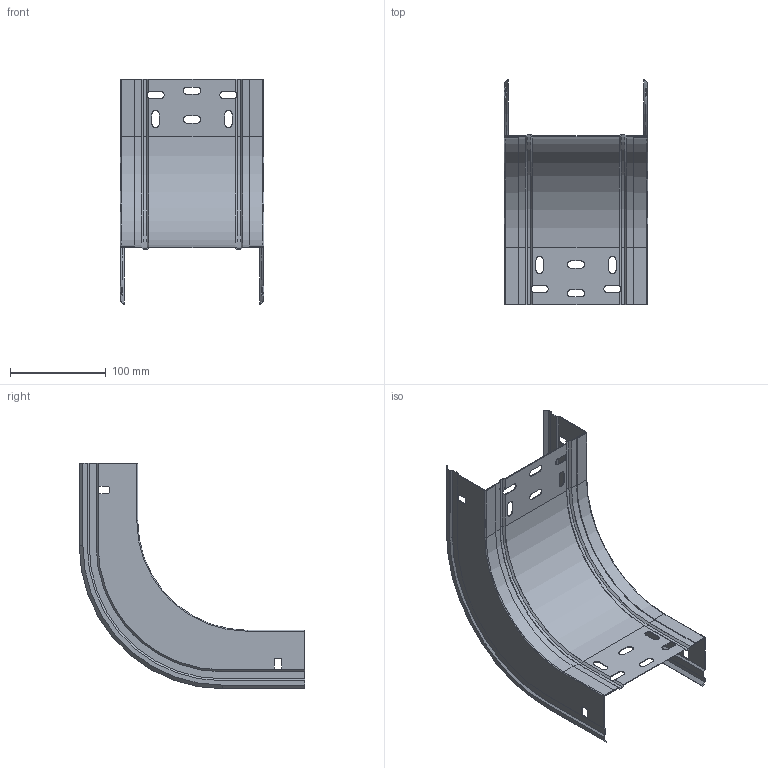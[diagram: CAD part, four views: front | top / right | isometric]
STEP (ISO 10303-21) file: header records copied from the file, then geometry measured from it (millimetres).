
FILE_DESCRIPTION (( 'STEP AP203' ), '1' );
FILE_NAME ('CXERC 150x60.STEP', '2020-02-12T11:07:17', ( '' ), ( '' ), 'SwSTEP 2.0', 'SolidWorks 2019', '' );
FILE_SCHEMA (( 'CONFIG_CONTROL_DESIGN' ));
Length unit declared in the file: millimetre
Products named in the file (3): ERE_BASE CX_150; ERE_LATERAL CX_60; CXERC 150x60
Assembly tree (3 placements, depth 2):
  CXERC 150x60
    ERE_BASE CX_150
    ERE_LATERAL CX_60  x2
Bounding box: 150 x 235.2 x 235.2 mm (x, y, z)
Volume: 80323.5 mm3; surface area: 203462.4 mm2
Topology: 3 solids, 3 shells, 232 faces, 632 edges, 394 vertices
Faces by surface type: plane 142, cylinder 64, cone 22, torus 4
Entity records: 5896 total; most frequent: CARTESIAN_POINT 1008, ORIENTED_EDGE 966, DIRECTION 957, EDGE_CURVE 483, LINE 343, VECTOR 343, AXIS2_PLACEMENT_3D 307, VERTEX_POINT 302
